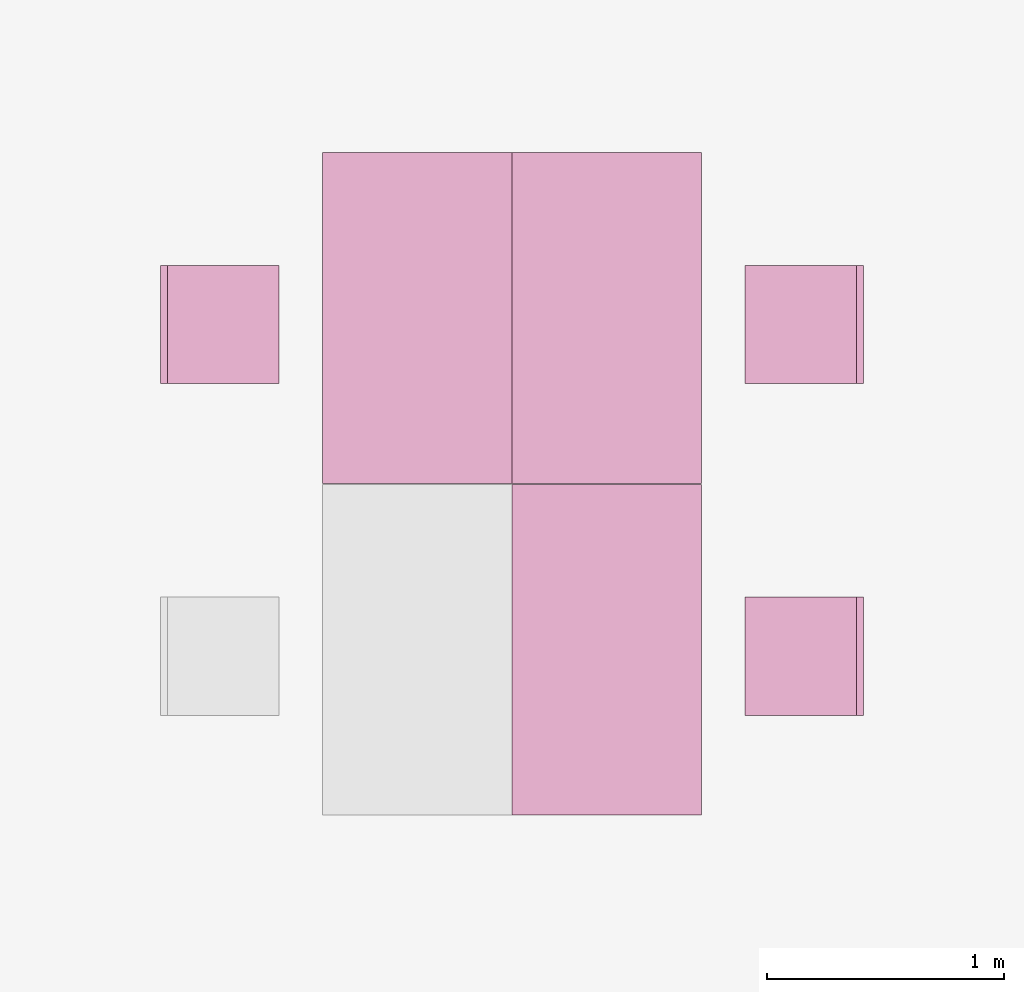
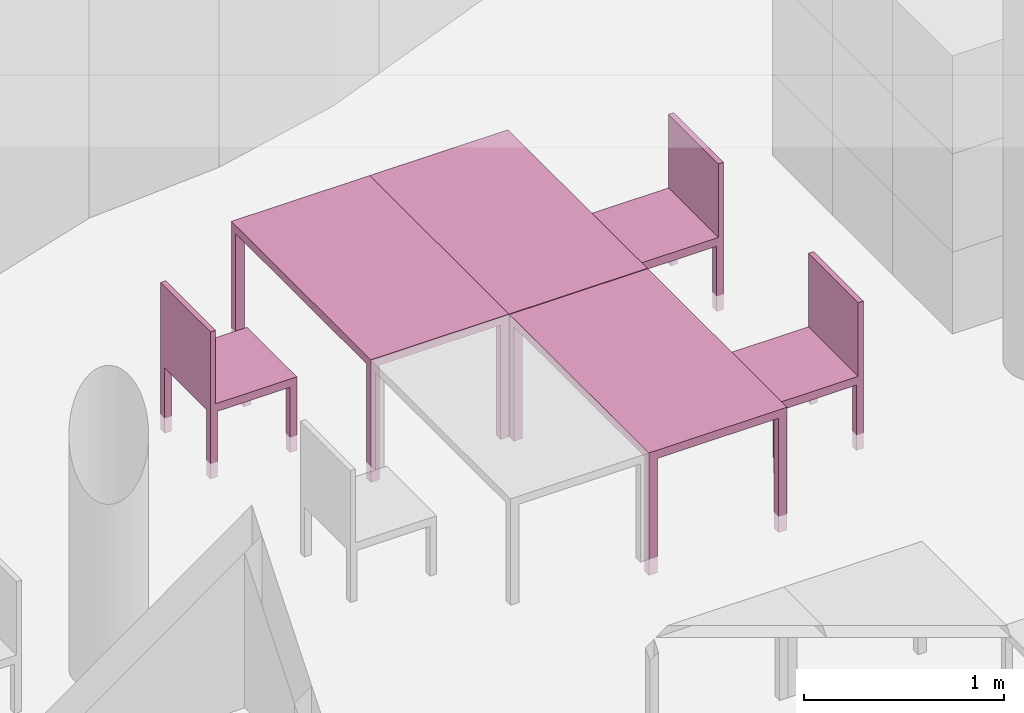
"""IFC4 building model written with IfcOpenShell, lengths in metres."""

from ifc_helpers import new_model, entity, si_unit, converted_unit, derived_unit, frame, origin, place, context, subcontext, project, spatial, faceted_brep, element, save


model = new_model("IFC4")

# Units and contexts
model_context = context("Model", 3, precision=1e-05, world=origin())
body_context = subcontext(model_context, "Body", "Model", "MODEL_VIEW")
ifc_project = project(units=[si_unit("LENGTHUNIT", "METRE"), si_unit("AREAUNIT", "SQUARE_METRE"), si_unit("VOLUMEUNIT", "CUBIC_METRE"), si_unit("MASSUNIT", "GRAM", prefix="KILO"), converted_unit("PLANEANGLEUNIT", "DEGREE", entity("IfcPlaneAngleMeasure", 0.0174532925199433), si_unit("PLANEANGLEUNIT", "RADIAN"), dimensions=[0, 0, 0, 0, 0, 0, 0]), derived_unit("THERMALTRANSMITTANCEUNIT", [(si_unit("POWERUNIT", "WATT"), 1), (si_unit("THERMODYNAMICTEMPERATUREUNIT", "KELVIN"), -1), (si_unit("LENGTHUNIT", "METRE"), -2)]), derived_unit("VOLUMETRICFLOWRATEUNIT", [(si_unit("LENGTHUNIT", "METRE"), 3), (converted_unit("TIMEUNIT", "hour", entity("IfcTimeMeasure", 3600.0), si_unit("TIMEUNIT", "SECOND"), dimensions=[0, 0, 1, 0, 0, 0, 0]), -1), (si_unit("LENGTHUNIT", "METRE"), -1)])], contexts=[model_context])

# Building, storeys
building_placement = place(None, origin())
building = spatial("IfcBuilding", under=ifc_project, at=building_placement, Name="HABITATGE PLURIFAMILIAR", CompositionType="ELEMENT")
storey_1_placement = place(building_placement, frame((0.0, 0.0, 12.27)))
storey_1 = spatial("IfcBuildingStorey", under=building, at=storey_1_placement, Name="PLANTA TERCERA", CompositionType="ELEMENT", Elevation=12.27)
storey_2_placement = place(storey_1_placement, frame((0.0, 0.0, 9.26)))
storey_2 = spatial("IfcBuildingStorey", under=storey_1, at=storey_2_placement, Name="NOU", CompositionType="PARTIAL")

# Furniture
furniture_1_placement = place(storey_2_placement, frame((413.556732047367, 17.2768712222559, -9.3599999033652)))
element("IfcFurniture", 1, at=furniture_1_placement, inside=storey_2, Name="Taula 140X80_P3", context=body_context, shape_type="Brep", body=[
    faceted_brep([(0.05, 0.04375, 0.0), (0.0, 0.04375, 0.0), (0.0, 0.0, 0.0), (0.05, 0.0, 0.0), (0.0, 0.04375, 0.7), (0.05, 0.04375, 0.7), (0.05, 0.0, 0.7), (0.0, 0.0, 0.7)], [[[0, 1, 2, 3]], [[4, 5, 6, 7]], [[1, 0, 5, 4]], [[2, 1, 4, 7]], [[3, 2, 7, 6]], [[0, 3, 6, 5]]], orient=[[False], [False], [False], [False], [False], [False]]),
    faceted_brep([(0.800069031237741, 0.04375, 0.0), (0.750069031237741, 0.04375, 0.0), (0.750069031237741, 0.0, 0.0), (0.800069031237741, 0.0, 0.0), (0.750069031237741, 0.04375, 0.7), (0.800069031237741, 0.04375, 0.7), (0.800069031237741, 0.0, 0.7), (0.750069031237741, 0.0, 0.7)], [[[0, 1, 2, 3]], [[4, 5, 6, 7]], [[1, 0, 5, 4]], [[2, 1, 4, 7]], [[3, 2, 7, 6]], [[0, 3, 6, 5]]], orient=[[False], [False], [False], [False], [False], [False]]),
    faceted_brep([(0.800069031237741, 1.39732768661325, 0.7), (0.0, 1.39732768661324, 0.7), (0.0, 0.0, 0.7), (0.800069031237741, 0.0, 0.7), (0.0, 1.39732768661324, 0.75), (0.800069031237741, 1.39732768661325, 0.75), (0.800069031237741, 0.0, 0.75), (0.0, 0.0, 0.75)], [[[0, 1, 2, 3]], [[4, 5, 6, 7]], [[1, 0, 5, 4]], [[2, 1, 4, 7]], [[3, 2, 7, 6]], [[0, 3, 6, 5]]], orient=[[False], [False], [False], [False], [False], [False]]),
    faceted_brep([(0.05, 1.39732768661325, 0.0), (0.0, 1.39732768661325, 0.0), (0.0, 1.35357768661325, 0.0), (0.05, 1.35357768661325, 0.0), (0.0, 1.39732768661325, 0.7), (0.05, 1.39732768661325, 0.7), (0.05, 1.35357768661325, 0.7), (0.0, 1.35357768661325, 0.7)], [[[0, 1, 2, 3]], [[4, 5, 6, 7]], [[1, 0, 5, 4]], [[2, 1, 4, 7]], [[3, 2, 7, 6]], [[0, 3, 6, 5]]], orient=[[False], [False], [False], [False], [False], [False]]),
    faceted_brep([(0.800069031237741, 1.39732768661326, 0.0), (0.750069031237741, 1.39732768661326, 0.0), (0.750069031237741, 1.35357768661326, 0.0), (0.800069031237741, 1.35357768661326, 0.0), (0.750069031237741, 1.39732768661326, 0.7), (0.800069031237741, 1.39732768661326, 0.7), (0.800069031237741, 1.35357768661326, 0.7), (0.750069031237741, 1.35357768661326, 0.7)], [[[0, 1, 2, 3]], [[4, 5, 6, 7]], [[1, 0, 5, 4]], [[2, 1, 4, 7]], [[3, 2, 7, 6]], [[0, 3, 6, 5]]], orient=[[False], [False], [False], [False], [False], [False]]),
])
furniture_2_placement = place(storey_2_placement, frame((413.556732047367, 18.6780503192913, -9.3599999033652)))
element("IfcFurniture", 2, at=furniture_2_placement, inside=storey_2, Name="Taula 140X80_P3", context=body_context, shape_type="Brep", body=[
    faceted_brep([(0.05, 0.04375, 0.0), (0.0, 0.04375, 0.0), (0.0, 0.0, 0.0), (0.05, 0.0, 0.0), (0.0, 0.04375, 0.7), (0.05, 0.04375, 0.7), (0.05, 0.0, 0.7), (0.0, 0.0, 0.7)], [[[0, 1, 2, 3]], [[4, 5, 6, 7]], [[1, 0, 5, 4]], [[2, 1, 4, 7]], [[3, 2, 7, 6]], [[0, 3, 6, 5]]], orient=[[False], [False], [False], [False], [False], [False]]),
    faceted_brep([(0.800069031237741, 0.04375, 0.0), (0.750069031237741, 0.04375, 0.0), (0.750069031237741, 0.0, 0.0), (0.800069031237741, 0.0, 0.0), (0.750069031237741, 0.04375, 0.7), (0.800069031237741, 0.04375, 0.7), (0.800069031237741, 0.0, 0.7), (0.750069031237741, 0.0, 0.7)], [[[0, 1, 2, 3]], [[4, 5, 6, 7]], [[1, 0, 5, 4]], [[2, 1, 4, 7]], [[3, 2, 7, 6]], [[0, 3, 6, 5]]], orient=[[False], [False], [False], [False], [False], [False]]),
    faceted_brep([(0.800069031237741, 1.39732768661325, 0.7), (0.0, 1.39732768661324, 0.7), (0.0, 0.0, 0.7), (0.800069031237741, 0.0, 0.7), (0.0, 1.39732768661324, 0.75), (0.800069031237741, 1.39732768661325, 0.75), (0.800069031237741, 0.0, 0.75), (0.0, 0.0, 0.75)], [[[0, 1, 2, 3]], [[4, 5, 6, 7]], [[1, 0, 5, 4]], [[2, 1, 4, 7]], [[3, 2, 7, 6]], [[0, 3, 6, 5]]], orient=[[False], [False], [False], [False], [False], [False]]),
    faceted_brep([(0.05, 1.39732768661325, 0.0), (0.0, 1.39732768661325, 0.0), (0.0, 1.35357768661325, 0.0), (0.05, 1.35357768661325, 0.0), (0.0, 1.39732768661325, 0.7), (0.05, 1.39732768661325, 0.7), (0.05, 1.35357768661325, 0.7), (0.0, 1.35357768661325, 0.7)], [[[0, 1, 2, 3]], [[4, 5, 6, 7]], [[1, 0, 5, 4]], [[2, 1, 4, 7]], [[3, 2, 7, 6]], [[0, 3, 6, 5]]], orient=[[False], [False], [False], [False], [False], [False]]),
    faceted_brep([(0.800069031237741, 1.39732768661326, 0.0), (0.750069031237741, 1.39732768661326, 0.0), (0.750069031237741, 1.35357768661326, 0.0), (0.800069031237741, 1.35357768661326, 0.0), (0.750069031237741, 1.39732768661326, 0.7), (0.800069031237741, 1.39732768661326, 0.7), (0.800069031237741, 1.35357768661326, 0.7), (0.750069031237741, 1.35357768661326, 0.7)], [[[0, 1, 2, 3]], [[4, 5, 6, 7]], [[1, 0, 5, 4]], [[2, 1, 4, 7]], [[3, 2, 7, 6]], [[0, 3, 6, 5]]], orient=[[False], [False], [False], [False], [False], [False]]),
])
furniture_3_placement = place(storey_2_placement, frame((412.75666301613, 18.6780503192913, -9.3599999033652)))
element("IfcFurniture", 3, at=furniture_3_placement, inside=storey_2, Name="Taula 140X80_P3", context=body_context, shape_type="Brep", body=[
    faceted_brep([(0.750069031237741, 0.04375, 0.0), (0.750069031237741, 0.0, 0.0), (0.800069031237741, 0.0, 0.0), (0.800069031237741, 0.04375, 0.0), (0.800069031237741, 0.04375, 0.7), (0.800069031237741, 0.0, 0.7), (0.750069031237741, 0.0, 0.7), (0.750069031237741, 0.04375, 0.7)], [[[0, 1, 2, 3]], [[4, 5, 6, 7]], [[3, 4, 7, 0]], [[2, 5, 4, 3]], [[1, 6, 5, 2]], [[0, 7, 6, 1]]], orient=[[False], [False], [False], [False], [False], [False]]),
    faceted_brep([(0.0, 0.04375, 0.0), (0.0, 0.0, 0.0), (0.05, 0.0, 0.0), (0.05, 0.04375, 0.0), (0.05, 0.04375, 0.7), (0.05, 0.0, 0.7), (0.0, 0.0, 0.7), (0.0, 0.04375, 0.7)], [[[0, 1, 2, 3]], [[4, 5, 6, 7]], [[3, 4, 7, 0]], [[2, 5, 4, 3]], [[1, 6, 5, 2]], [[0, 7, 6, 1]]], orient=[[False], [False], [False], [False], [False], [False]]),
    faceted_brep([(0.0, 1.39732768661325, 0.7), (0.0, 0.0, 0.7), (0.800069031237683, 0.0, 0.7), (0.800069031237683, 1.39732768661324, 0.7), (0.800069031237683, 1.39732768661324, 0.75), (0.800069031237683, 0.0, 0.75), (0.0, 0.0, 0.75), (0.0, 1.39732768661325, 0.75)], [[[0, 1, 2, 3]], [[4, 5, 6, 7]], [[3, 4, 7, 0]], [[2, 5, 4, 3]], [[1, 6, 5, 2]], [[0, 7, 6, 1]]], orient=[[False], [False], [False], [False], [False], [False]]),
    faceted_brep([(0.750069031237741, 1.39732768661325, 0.0), (0.750069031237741, 1.35357768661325, 0.0), (0.800069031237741, 1.35357768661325, 0.0), (0.800069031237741, 1.39732768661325, 0.0), (0.800069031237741, 1.39732768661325, 0.7), (0.800069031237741, 1.35357768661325, 0.7), (0.750069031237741, 1.35357768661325, 0.7), (0.750069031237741, 1.39732768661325, 0.7)], [[[0, 1, 2, 3]], [[4, 5, 6, 7]], [[3, 4, 7, 0]], [[2, 5, 4, 3]], [[1, 6, 5, 2]], [[0, 7, 6, 1]]], orient=[[False], [False], [False], [False], [False], [False]]),
    faceted_brep([(0.0, 1.39732768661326, 0.0), (0.0, 1.35357768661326, 0.0), (0.05, 1.35357768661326, 0.0), (0.05, 1.39732768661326, 0.0), (0.05, 1.39732768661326, 0.7), (0.05, 1.35357768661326, 0.7), (0.0, 1.35357768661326, 0.7), (0.0, 1.39732768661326, 0.7)], [[[0, 1, 2, 3]], [[4, 5, 6, 7]], [[3, 4, 7, 0]], [[2, 5, 4, 3]], [[1, 6, 5, 2]], [[0, 7, 6, 1]]], orient=[[False], [False], [False], [False], [False], [False]]),
])
furniture_4_placement = place(storey_2_placement, frame((414.540943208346, 17.6980313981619, -9.35590342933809)))
element("IfcFurniture", 4, at=furniture_4_placement, inside=storey_2, Name="Cadira d'Oficina_P3", context=body_context, shape_type="Brep", body=[
    faceted_brep([(0.0, 0.5, 0.4), (0.0, 0.0, 0.4), (0.5, 0.0, 0.4), (0.5, 0.5, 0.4), (0.5, 0.5, 0.45), (0.5, 0.0, 0.45), (0.0, 0.0, 0.45), (0.0, 0.5, 0.45)], [[[0, 1, 2, 3]], [[4, 5, 6, 7]], [[3, 4, 7, 0]], [[2, 5, 4, 3]], [[1, 6, 5, 2]], [[0, 7, 6, 1]]], orient=[[False], [False], [False], [False], [False], [False]]),
    faceted_brep([(0.46, 0.0, 0.0), (0.5, 0.0, 0.0), (0.5, 0.04, 0.0), (0.46, 0.04, 0.0), (0.46, 0.04, 0.4), (0.5, 0.04, 0.4), (0.5, 0.0, 0.4), (0.46, 0.0, 0.4)], [[[0, 1, 2, 3]], [[4, 5, 6, 7]], [[3, 4, 7, 0]], [[2, 5, 4, 3]], [[1, 6, 5, 2]], [[0, 7, 6, 1]]], orient=[[False], [False], [False], [False], [False], [False]]),
    faceted_brep([(0.0, 0.0, 0.0), (0.04, 0.0, 0.0), (0.04, 0.04, 0.0), (0.0, 0.04, 0.0), (0.0, 0.04, 0.4), (0.04, 0.04, 0.4), (0.04, 0.0, 0.4), (0.0, 0.0, 0.4)], [[[0, 1, 2, 3]], [[4, 5, 6, 7]], [[3, 4, 7, 0]], [[2, 5, 4, 3]], [[1, 6, 5, 2]], [[0, 7, 6, 1]]], orient=[[False], [False], [False], [False], [False], [False]]),
    faceted_brep([(0.46, 0.46, 0.0), (0.5, 0.46, 0.0), (0.5, 0.5, 0.0), (0.46, 0.5, 0.0), (0.46, 0.5, 0.4), (0.5, 0.5, 0.4), (0.5, 0.46, 0.4), (0.46, 0.46, 0.4)], [[[0, 1, 2, 3]], [[4, 5, 6, 7]], [[3, 4, 7, 0]], [[2, 5, 4, 3]], [[1, 6, 5, 2]], [[0, 7, 6, 1]]], orient=[[False], [False], [False], [False], [False], [False]]),
    faceted_brep([(0.0, 0.46, 0.0), (0.04, 0.46, 0.0), (0.04, 0.5, 0.0), (0.0, 0.5, 0.0), (0.0, 0.5, 0.4), (0.04, 0.5, 0.4), (0.04, 0.46, 0.4), (0.0, 0.46, 0.4)], [[[0, 1, 2, 3]], [[4, 5, 6, 7]], [[3, 4, 7, 0]], [[2, 5, 4, 3]], [[1, 6, 5, 2]], [[0, 7, 6, 1]]], orient=[[False], [False], [False], [False], [False], [False]]),
    faceted_brep([(0.47, 0.0, 0.45), (0.5, 0.0, 0.45), (0.5, 0.5, 0.45), (0.47, 0.5, 0.45), (0.47, 0.5, 0.9), (0.5, 0.5, 0.9), (0.5, 0.0, 0.9), (0.47, 0.0, 0.9)], [[[0, 1, 2, 3]], [[4, 5, 6, 7]], [[3, 4, 7, 0]], [[2, 5, 4, 3]], [[1, 6, 5, 2]], [[0, 7, 6, 1]]], orient=[[False], [False], [False], [False], [False], [False]]),
])
furniture_5_placement = place(storey_2_placement, frame((414.540943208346, 19.0992104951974, -9.35590342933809)))
element("IfcFurniture", 5, at=furniture_5_placement, inside=storey_2, Name="Cadira d'Oficina_P3", context=body_context, shape_type="Brep", body=[
    faceted_brep([(0.0, 0.5, 0.4), (0.0, 0.0, 0.4), (0.5, 0.0, 0.4), (0.5, 0.5, 0.4), (0.5, 0.5, 0.45), (0.5, 0.0, 0.45), (0.0, 0.0, 0.45), (0.0, 0.5, 0.45)], [[[0, 1, 2, 3]], [[4, 5, 6, 7]], [[3, 4, 7, 0]], [[2, 5, 4, 3]], [[1, 6, 5, 2]], [[0, 7, 6, 1]]], orient=[[False], [False], [False], [False], [False], [False]]),
    faceted_brep([(0.46, 0.0, 0.0), (0.5, 0.0, 0.0), (0.5, 0.04, 0.0), (0.46, 0.04, 0.0), (0.46, 0.04, 0.4), (0.5, 0.04, 0.4), (0.5, 0.0, 0.4), (0.46, 0.0, 0.4)], [[[0, 1, 2, 3]], [[4, 5, 6, 7]], [[3, 4, 7, 0]], [[2, 5, 4, 3]], [[1, 6, 5, 2]], [[0, 7, 6, 1]]], orient=[[False], [False], [False], [False], [False], [False]]),
    faceted_brep([(0.0, 0.0, 0.0), (0.04, 0.0, 0.0), (0.04, 0.04, 0.0), (0.0, 0.04, 0.0), (0.0, 0.04, 0.4), (0.04, 0.04, 0.4), (0.04, 0.0, 0.4), (0.0, 0.0, 0.4)], [[[0, 1, 2, 3]], [[4, 5, 6, 7]], [[3, 4, 7, 0]], [[2, 5, 4, 3]], [[1, 6, 5, 2]], [[0, 7, 6, 1]]], orient=[[False], [False], [False], [False], [False], [False]]),
    faceted_brep([(0.46, 0.46, 0.0), (0.5, 0.46, 0.0), (0.5, 0.5, 0.0), (0.46, 0.5, 0.0), (0.46, 0.5, 0.4), (0.5, 0.5, 0.4), (0.5, 0.46, 0.4), (0.46, 0.46, 0.4)], [[[0, 1, 2, 3]], [[4, 5, 6, 7]], [[3, 4, 7, 0]], [[2, 5, 4, 3]], [[1, 6, 5, 2]], [[0, 7, 6, 1]]], orient=[[False], [False], [False], [False], [False], [False]]),
    faceted_brep([(0.0, 0.46, 0.0), (0.04, 0.46, 0.0), (0.04, 0.5, 0.0), (0.0, 0.5, 0.0), (0.0, 0.5, 0.4), (0.04, 0.5, 0.4), (0.04, 0.46, 0.4), (0.0, 0.46, 0.4)], [[[0, 1, 2, 3]], [[4, 5, 6, 7]], [[3, 4, 7, 0]], [[2, 5, 4, 3]], [[1, 6, 5, 2]], [[0, 7, 6, 1]]], orient=[[False], [False], [False], [False], [False], [False]]),
    faceted_brep([(0.47, 0.0, 0.45), (0.5, 0.0, 0.45), (0.5, 0.5, 0.45), (0.47, 0.5, 0.45), (0.47, 0.5, 0.9), (0.5, 0.5, 0.9), (0.5, 0.0, 0.9), (0.47, 0.0, 0.9)], [[[0, 1, 2, 3]], [[4, 5, 6, 7]], [[3, 4, 7, 0]], [[2, 5, 4, 3]], [[1, 6, 5, 2]], [[0, 7, 6, 1]]], orient=[[False], [False], [False], [False], [False], [False]]),
])
furniture_6_placement = place(storey_2_placement, frame((412.072520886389, 19.0992104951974, -9.3546338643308)))
element("IfcFurniture", 6, at=furniture_6_placement, inside=storey_2, Name="Cadira d'Oficina_P3", context=body_context, shape_type="Brep", body=[
    faceted_brep([(0.500000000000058, 0.5, 0.4), (0.0, 0.5, 0.4), (0.0, 0.0, 0.4), (0.500000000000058, 0.0, 0.4), (0.0, 0.5, 0.45), (0.500000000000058, 0.5, 0.45), (0.500000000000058, 0.0, 0.45), (0.0, 0.0, 0.45)], [[[0, 1, 2, 3]], [[4, 5, 6, 7]], [[1, 0, 5, 4]], [[2, 1, 4, 7]], [[3, 2, 7, 6]], [[0, 3, 6, 5]]], orient=[[False], [False], [False], [False], [False], [False]]),
    faceted_brep([(0.0400000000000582, 0.0, 0.0), (0.0400000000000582, 0.04, 0.0), (0.0, 0.04, 0.0), (0.0, 0.0, 0.0), (0.0400000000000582, 0.04, 0.4), (0.0400000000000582, 0.0, 0.4), (0.0, 0.0, 0.4), (0.0, 0.04, 0.4)], [[[0, 1, 2, 3]], [[4, 5, 6, 7]], [[1, 0, 5, 4]], [[2, 1, 4, 7]], [[3, 2, 7, 6]], [[0, 3, 6, 5]]], orient=[[False], [False], [False], [False], [False], [False]]),
    faceted_brep([(0.500000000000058, 0.0, 0.0), (0.500000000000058, 0.04, 0.0), (0.460000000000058, 0.04, 0.0), (0.460000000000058, 0.0, 0.0), (0.500000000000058, 0.04, 0.4), (0.500000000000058, 0.0, 0.4), (0.460000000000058, 0.0, 0.4), (0.460000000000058, 0.04, 0.4)], [[[0, 1, 2, 3]], [[4, 5, 6, 7]], [[1, 0, 5, 4]], [[2, 1, 4, 7]], [[3, 2, 7, 6]], [[0, 3, 6, 5]]], orient=[[False], [False], [False], [False], [False], [False]]),
    faceted_brep([(0.04, 0.46, 0.0), (0.04, 0.5, 0.0), (0.0, 0.5, 0.0), (0.0, 0.46, 0.0), (0.04, 0.5, 0.4), (0.04, 0.46, 0.4), (0.0, 0.46, 0.4), (0.0, 0.5, 0.4)], [[[0, 1, 2, 3]], [[4, 5, 6, 7]], [[1, 0, 5, 4]], [[2, 1, 4, 7]], [[3, 2, 7, 6]], [[0, 3, 6, 5]]], orient=[[False], [False], [False], [False], [False], [False]]),
    faceted_brep([(0.500000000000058, 0.46, 0.0), (0.500000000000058, 0.5, 0.0), (0.460000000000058, 0.5, 0.0), (0.460000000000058, 0.46, 0.0), (0.500000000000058, 0.5, 0.4), (0.500000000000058, 0.46, 0.4), (0.460000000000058, 0.46, 0.4), (0.460000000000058, 0.5, 0.4)], [[[0, 1, 2, 3]], [[4, 5, 6, 7]], [[1, 0, 5, 4]], [[2, 1, 4, 7]], [[3, 2, 7, 6]], [[0, 3, 6, 5]]], orient=[[False], [False], [False], [False], [False], [False]]),
    faceted_brep([(0.0300000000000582, 0.0, 0.45), (0.03, 0.5, 0.45), (0.0, 0.5, 0.45), (0.0, 0.0, 0.45), (0.03, 0.5, 0.9), (0.0300000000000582, 0.0, 0.9), (0.0, 0.0, 0.9), (0.0, 0.5, 0.9)], [[[0, 1, 2, 3]], [[4, 5, 6, 7]], [[1, 0, 5, 4]], [[2, 1, 4, 7]], [[3, 2, 7, 6]], [[0, 3, 6, 5]]], orient=[[False], [False], [False], [False], [False], [False]]),
])

save(model, "model.ifc")
